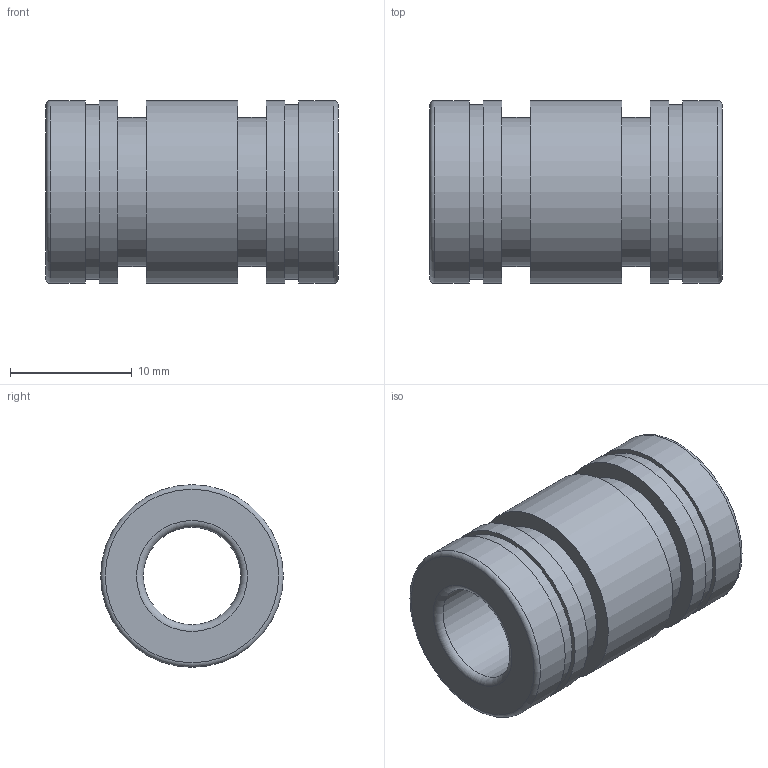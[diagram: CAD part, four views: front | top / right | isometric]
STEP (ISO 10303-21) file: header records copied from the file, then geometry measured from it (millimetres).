
FILE_DESCRIPTION(('STEP AP203'),'1');
FILE_NAME('//192.168.1.1/share/s-4 技術開発/s-4-4_CAD/s-4-4-3_見直し済み/PBC LINEAR修正済み/3D途中/FJ/FJ08.step','2022-03-24T06:59:07',(' '),(' '),'Spatial InterOp 3D',' ',' ');
FILE_SCHEMA(('CONFIG_CONTROL_DESIGN'));
Length unit declared in the file: millimetre
Products named in the file (1): 1
Bounding box: 24 x 15 x 15 mm (x, y, z)
Volume: 2712.7 mm3; surface area: 2214.2 mm2
Topology: 1 solids, 1 shells, 24 faces, 38 edges, 24 vertices
Faces by surface type: cylinder 10, plane 10, torus 4
Full cylindrical faces by diameter (mm): 8 x1, 12.243 x2, 14.3 x2, 15 x5
Entity records: 532 total; most frequent: DIRECTION 98, CARTESIAN_POINT 73, AXIS2_PLACEMENT_3D 49, EDGE_LOOP 48, ORIENTED_EDGE 48, FACE_OUTER_BOUND 38, ADVANCED_FACE 24, EDGE_CURVE 24
